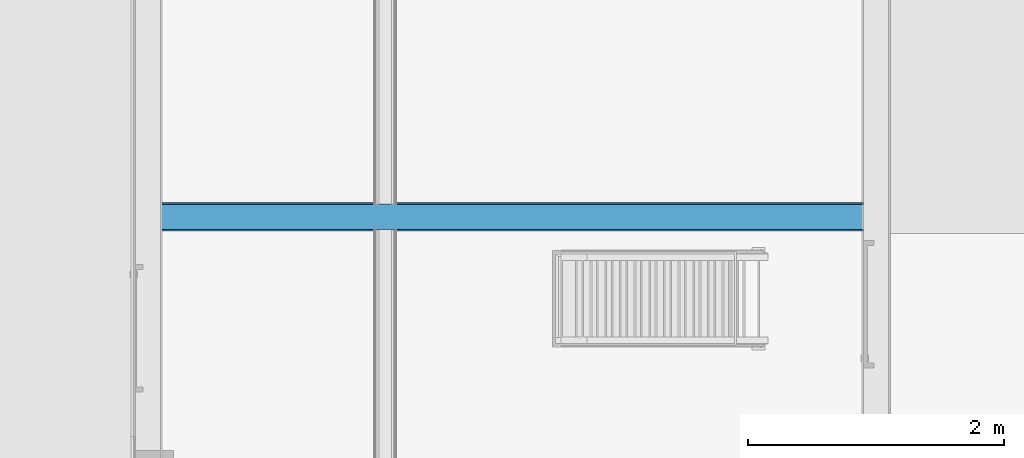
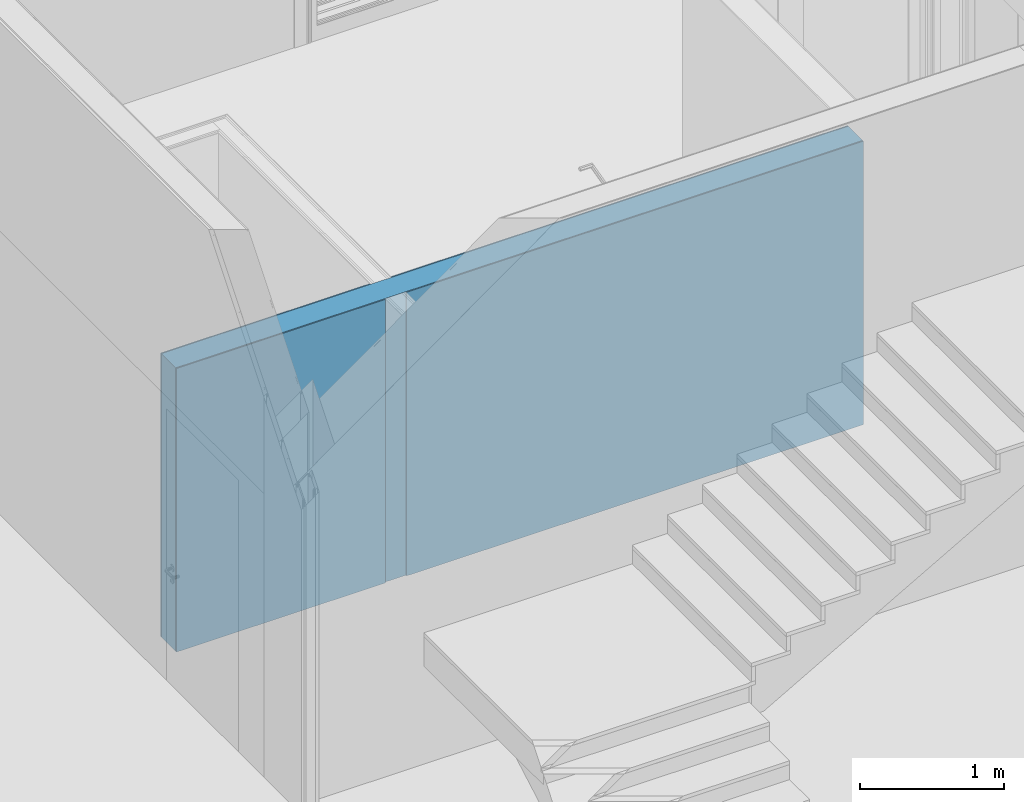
# One storey, part 177 of 260: 3 building element parts, 1 element without a shape of its own.
"""IFC2X3 building model written with IfcOpenShell, lengths in millimetres."""

from ifc_helpers import new_model, entity, si_unit, converted_unit, derived_unit, money_unit, direction, frame, origin_with_axes, place, context, subcontext, project, spatial, faceted_brep, material, type_object, element, aggregate, save


model = new_model("IFC2X3")

# Units and contexts
model_context = context("Model", 3, precision=0.01, world=origin_with_axes(), true_north=direction((0.0, 1.0)))
body_context = subcontext(model_context, "Body", "Model", "MODEL_VIEW")
ifc_project = project(units=[si_unit("LENGTHUNIT", "METRE", prefix="MILLI"), si_unit("AREAUNIT", "SQUARE_METRE"), si_unit("VOLUMEUNIT", "CUBIC_METRE"), converted_unit("PLANEANGLEUNIT", "DEGREE", entity("IfcPlaneAngleMeasure", 0.0174532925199), si_unit("PLANEANGLEUNIT", "RADIAN"), dimensions=[0, 0, 0, 0, 0, 0, 0]), money_unit("EUR"), converted_unit("TIMEUNIT", "Year", entity("IfcTimeMeasure", 31556926.0), si_unit("TIMEUNIT", "SECOND"), dimensions=[0, 0, 1, 0, 0, 0, 0]), si_unit("MASSUNIT", "GRAM", prefix="KILO"), si_unit("THERMODYNAMICTEMPERATUREUNIT", "DEGREE_CELSIUS"), si_unit("LUMINOUSINTENSITYUNIT", "LUMEN"), si_unit("ENERGYUNIT", "JOULE", prefix="MEGA"), derived_unit("THERMALCONDUCTANCEUNIT", [(si_unit("POWERUNIT", "WATT"), 1), (si_unit("LENGTHUNIT", "METRE"), -1), (si_unit("THERMODYNAMICTEMPERATUREUNIT", "KELVIN"), -1)]), derived_unit("SPECIFICHEATCAPACITYUNIT", [(si_unit("ENERGYUNIT", "JOULE"), 1), (si_unit("MASSUNIT", "GRAM", prefix="KILO"), -1), (si_unit("THERMODYNAMICTEMPERATUREUNIT", "KELVIN"), -1)]), derived_unit("MASSDENSITYUNIT", [(si_unit("MASSUNIT", "GRAM", prefix="KILO"), 1), (si_unit("VOLUMEUNIT", "CUBIC_METRE"), -1)])], contexts=[model_context])

# Site, building, storey
site_placement = place(None, origin_with_axes())
site = spatial("IfcSite", under=ifc_project, at=site_placement, Name="Kolde pst 67a", CompositionType="ELEMENT")
building_placement = place(site_placement, origin_with_axes())
building = spatial("IfcBuilding", under=site, at=building_placement, Name="Riigigümnaasium", CompositionType="ELEMENT")
storey_placement = place(building_placement, origin_with_axes())
storey = spatial("IfcBuildingStorey", under=building, at=storey_placement, Name="1. korrus", CompositionType="ELEMENT", Elevation=0.0)

# Wall, building element parts
wall_type = type_object("IfcWallType", Name="SS-RB-20/1_+2 krohv 55 dB 220", PredefinedType="NOTDEFINED")
wall_placement = place(storey_placement, frame((52819.9941096, 36479.9996998, 0.0), z_axis=(0.0, 0.0, 1.0), x_axis=(1.0, 0.0, 0.0)))
wall = element("IfcWall", 1, at=wall_placement, inside=storey, type_object=wall_type, Name="Sisesein")
ifc_material_1 = material(Name="_VIIMISTLUSKIHT - viimistlus vastavalt SA osale")
building_element_part_1_placement = place(wall_placement, origin_with_axes())
building_element_part_1 = element("IfcBuildingElementPart", 2, at=building_element_part_1_placement, material=ifc_material_1, Name="_VIIMISTLUSKIHT - viimistlus vastavalt SA osale", context=body_context, shape_type="Brep", body=[
    faceted_brep([(5499.95478283, -10.0, 2400.0), (5499.95478283, 0.0, 2400.0), (1843.72470776, 0.0, 2400.0), (1843.72470776, -10.0, 2400.0), (5499.95478283, -10.0, 0.0), (5499.95478283, 0.0, 0.0), (1843.72470776, 0.0, 0.0), (1843.72470776, -10.0, 0.0)], [[[0, 1, 2, 3]], [[0, 4, 5, 1]], [[1, 5, 6, 2]], [[3, 2, 6, 7]], [[4, 0, 3, 7]], [[5, 4, 7, 6]]]),
    faceted_brep([(1673.72470776, 0.0, 2400.0), (0.0, 0.0, 2400.0), (0.0, -10.0, 2400.0), (1673.72470776, -10.0, 2400.0), (1673.72470776, 0.0, 0.0), (0.0, 0.0, 0.0), (0.0, -10.0, 0.0), (1673.72470776, -10.0, 0.0)], [[[0, 1, 2, 3]], [[4, 5, 1, 0]], [[2, 1, 5, 6]], [[3, 2, 6, 7]], [[3, 7, 4, 0]], [[7, 6, 5, 4]]]),
])
ifc_material_2 = material(Name="_KANDETARIND - monteeritav raudbetoon vastavalt EK osale")
building_element_part_2_placement = place(wall_placement, origin_with_axes())
building_element_part_2 = element("IfcBuildingElementPart", 3, at=building_element_part_2_placement, material=ifc_material_2, Name="_KANDETARIND - monteeritav raudbetoon vastavalt EK osale", context=body_context, shape_type="Brep", body=[
    faceted_brep([(5499.95478283, -210.0, 2400.0), (5499.95478283, -10.0, 2400.0), (0.0, -10.0, 2400.0), (0.0, -210.0, 2400.0), (5499.95478283, -210.0, 0.0), (5499.95478283, -10.0, 0.0), (0.0, -10.0, 0.0), (0.0, -210.0, 0.0)], [[[0, 1, 2, 3]], [[0, 4, 5, 1]], [[1, 5, 6, 2]], [[3, 2, 6, 7]], [[4, 0, 3, 7]], [[5, 4, 7, 6]]]),
])
building_element_part_3_placement = place(wall_placement, origin_with_axes())
building_element_part_3 = element("IfcBuildingElementPart", 4, at=building_element_part_3_placement, material=ifc_material_1, Name="_VIIMISTLUSKIHT - viimistlus vastavalt SA osale", context=body_context, shape_type="Brep", body=[
    faceted_brep([(5499.95478283, -220.0, 2400.0), (5499.95478283, -210.0, 2400.0), (1843.72470776, -210.0, 2400.0), (1843.72470776, -220.0, 2400.0), (5499.95478283, -220.0, 0.0), (5499.95478283, -210.0, 0.0), (1843.72470776, -210.0, 0.0), (1843.72470776, -220.0, 0.0)], [[[0, 1, 2, 3]], [[0, 4, 5, 1]], [[1, 5, 6, 2]], [[3, 2, 6, 7]], [[4, 0, 3, 7]], [[5, 4, 7, 6]]]),
    faceted_brep([(1673.72470776, -210.0, 2400.0), (0.0, -210.0, 2400.0), (0.0, -220.0, 2400.0), (1673.72470776, -220.0, 2400.0), (1673.72470776, -210.0, 0.0), (0.0, -210.0, 0.0), (0.0, -220.0, 0.0), (1673.72470776, -220.0, 0.0)], [[[0, 1, 2, 3]], [[4, 5, 1, 0]], [[2, 1, 5, 6]], [[3, 2, 6, 7]], [[3, 7, 4, 0]], [[7, 6, 5, 4]]]),
])
aggregate(wall, [building_element_part_1, building_element_part_2, building_element_part_3])

save(model, "model.ifc")
